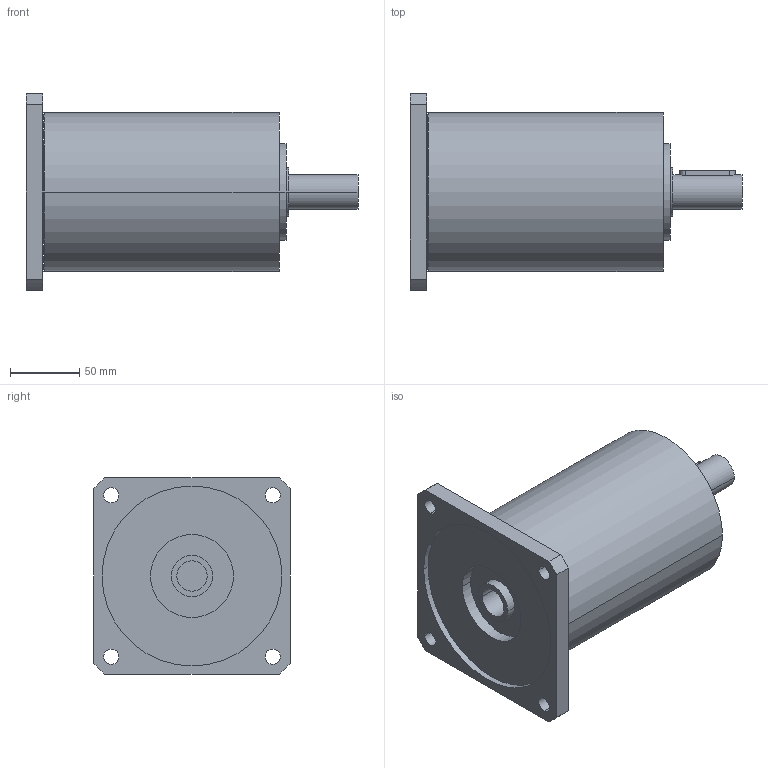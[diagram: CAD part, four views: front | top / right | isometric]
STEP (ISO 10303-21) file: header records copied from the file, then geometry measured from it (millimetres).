
FILE_DESCRIPTION(('CoCreate Modeling STEP Export'),'2;1');
FILE_NAME('GPR125_ig-9-12-16-20-28-35_25_B14_22_P08.stp','2014-08-26T14:10:59',(''),(''),'CoCreate Modeling STEP processor for AP214 (Solid Model)','CoCreate Modeling 16.00C 25-Feb-2009 (C) Parametric Technology GmbH','');
FILE_SCHEMA(('AUTOMOTIVE_DESIGN { 1 0 10303 214 1 1 1 1 }'));
Length unit declared in the file: millimetre
Products named in the file (2): GPR125_ig-9-12-16-20-28-35_25_B14_22_P08
Assembly tree (1 placements, depth 2):
  GPR125_ig-9-12-16-20-28-35_25_B14_22_P08
    GPR125_ig-9-12-16-20-28-35_25_B14_22_P08
Bounding box: 240 x 142 x 142 mm (x, y, z)
Volume: 1946993.8 mm3; surface area: 138407.9 mm2
Topology: 1 solids, 1 shells, 68 faces, 186 edges, 132 vertices
Faces by surface type: cylinder 42, plane 22, cone 4
Entity records: 1918 total; most frequent: ORIENTED_EDGE 368, CARTESIAN_POINT 361, DIRECTION 258, EDGE_CURVE 184, VERTEX_POINT 132, AXIS2_PLACEMENT_3D 97, EDGE_LOOP 90, FACE_OUTER_BOUND 68
